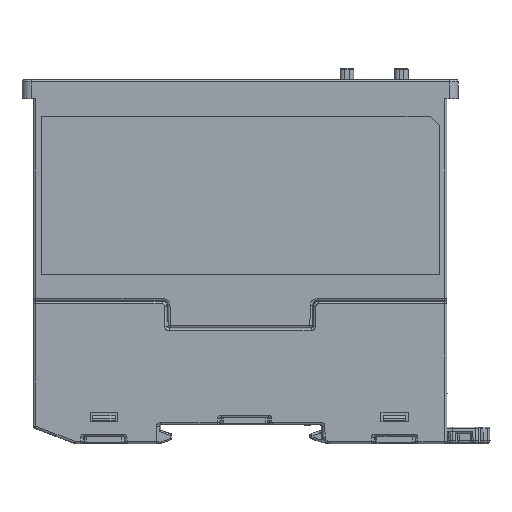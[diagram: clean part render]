
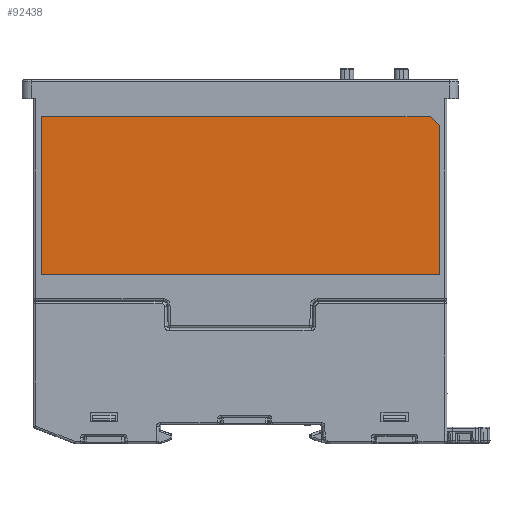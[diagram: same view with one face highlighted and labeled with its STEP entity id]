
A CAD part, left-side view. The second image highlights one B-rep face of the part: STEP entity #92438.
In plain terms, the highlighted planar face has unit normal (-1, 0, 0).
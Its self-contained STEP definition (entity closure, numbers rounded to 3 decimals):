
#55802=DIRECTION('',(0.,0.707,0.707));
#55803=VECTOR('',#55802,2.828);
#55804=CARTESIAN_POINT('',(-11.05,-43.8,-6.));
#55805=LINE('',#55804,#55803);
#55809=DIRECTION('',(0.,0.,1.));
#55810=VECTOR('',#55809,32.8);
#55811=CARTESIAN_POINT('',(-11.05,-43.8,-38.8));
#55812=LINE('',#55811,#55810);
#55816=DIRECTION('',(0.,-1.,0.));
#55817=VECTOR('',#55816,87.6);
#55818=CARTESIAN_POINT('',(-11.05,43.8,-38.8));
#55819=LINE('',#55818,#55817);
#55823=DIRECTION('',(0.,0.,-1.));
#55824=VECTOR('',#55823,34.8);
#55825=CARTESIAN_POINT('',(-11.05,43.8,-4.));
#55826=LINE('',#55825,#55824);
#55830=DIRECTION('',(0.,1.,0.));
#55831=VECTOR('',#55830,85.6);
#55832=CARTESIAN_POINT('',(-11.05,-41.8,-4.));
#55833=LINE('',#55832,#55831);
#60271=CARTESIAN_POINT('',(-11.05,43.8,-4.));
#60272=CARTESIAN_POINT('',(-11.05,43.8,-38.8));
#60273=VERTEX_POINT('',#60271);
#60274=VERTEX_POINT('',#60272);
#60275=CARTESIAN_POINT('',(-11.05,-43.8,-38.8));
#60276=VERTEX_POINT('',#60275);
#60291=CARTESIAN_POINT('',(-11.05,-43.8,-6.));
#60292=CARTESIAN_POINT('',(-11.05,-41.8,-4.));
#60293=VERTEX_POINT('',#60291);
#60294=VERTEX_POINT('',#60292);
#92423=CARTESIAN_POINT('',(-11.05,0.,0.));
#92424=DIRECTION('',(-1.,0.,0.));
#92425=DIRECTION('',(0.,0.,1.));
#92426=AXIS2_PLACEMENT_3D('',#92423,#92424,#92425);
#92427=PLANE('',#92426);
#92428=ORIENTED_EDGE('',*,*,#92414,.F.);
#92429=ORIENTED_EDGE('',*,*,#92404,.F.);
#92431=ORIENTED_EDGE('',*,*,#92430,.F.);
#92433=ORIENTED_EDGE('',*,*,#92432,.F.);
#92435=ORIENTED_EDGE('',*,*,#92434,.F.);
#92436=EDGE_LOOP('',(#92428,#92429,#92431,#92433,#92435));
#92437=FACE_OUTER_BOUND('',#92436,.F.);
#92438=ADVANCED_FACE('',(#92437),#92427,.T.);
#92404=EDGE_CURVE('',#60276,#60293,#55812,.T.);
#92414=EDGE_CURVE('',#60293,#60294,#55805,.T.);
#92430=EDGE_CURVE('',#60274,#60276,#55819,.T.);
#92432=EDGE_CURVE('',#60273,#60274,#55826,.T.);
#92434=EDGE_CURVE('',#60294,#60273,#55833,.T.);
